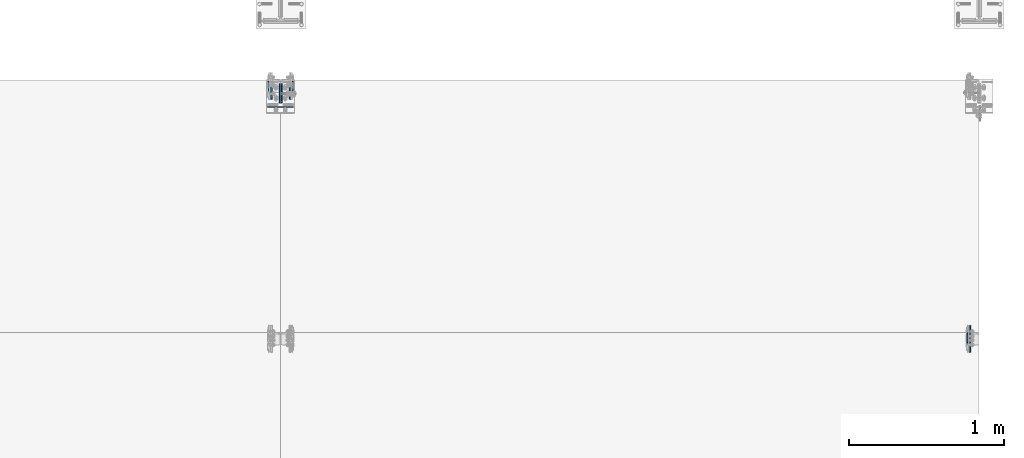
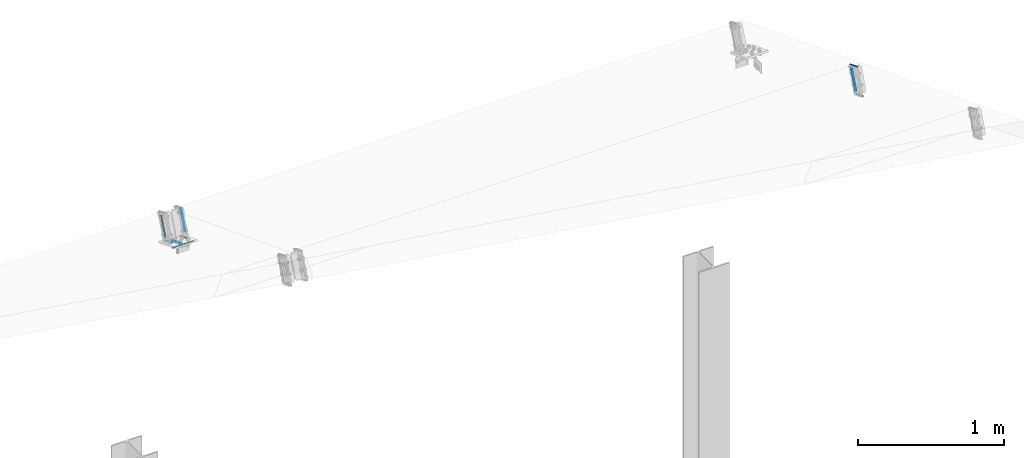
# One storey, part 19 of 72: 18 fasteners.
"""IFC4 building model written with IfcOpenShell, lengths in metres."""

import ifcopenshell
import ifcopenshell.guid

model = None  # the IFC model being written
_history = None  # IfcOwnerHistory: only IFC2X3 demands one
_inside = {}  # id of a spatial element -> (the spatial element, [elements in it])
_under = {}  # id of a project, library or spatial element -> (it, [spatial elements below it])
_declared = {}  # id of a project -> (the project, [libraries it declares])
_typed = {}  # id of a type object -> (the type object, [elements of that type])
_made_of = {}  # id of a material, layer set ... -> (it, [elements and type objects made of it])


def new_model(schema):
    """Start an empty IFC model of exactly this schema.

    Asked for "IFC4X3", IfcOpenShell would pick the latest addendum, in which some entities
    have other attributes; the version numbers below select the first issue.
    IFC2X3 requires an IfcOwnerHistory on every rooted entity: one is made here for all.
    """
    global model, _history
    if schema == "IFC4X3":
        model = ifcopenshell.file(schema_version=(4, 3, 0, 0))
    else:
        model = ifcopenshell.file(schema=schema)
    _inside.clear()
    _under.clear()
    _declared.clear()
    _typed.clear()
    _made_of.clear()
    _history = None
    if model.schema == "IFC2X3":
        org = make("IfcOrganization", Name="unknown")
        user = make(
            "IfcPersonAndOrganization",
            ThePerson=make("IfcPerson", FamilyName="unknown"),
            TheOrganization=org,
        )
        app = make(
            "IfcApplication",
            ApplicationDeveloper=org,
            Version="unknown",
            ApplicationFullName="unknown",
            ApplicationIdentifier="unknown",
        )
        _history = make(
            "IfcOwnerHistory",
            OwningUser=user,
            OwningApplication=app,
            ChangeAction="ADDED",
            CreationDate=0,
        )
    return model


def make(cls, **values):
    """One entity of the class cls with the attributes given. An attribute that is None is left unset."""
    return model.create_entity(
        cls, **{name: value for name, value in values.items() if value is not None}
    )


def rooted(cls, **values):
    """An entity with a GlobalId (a new one), such as an element, a storey or a relation."""
    return make(cls, GlobalId=ifcopenshell.guid.new(), OwnerHistory=_history, **values)


def si_unit(unit_type, name, prefix=None):
    """IfcSIUnit, for example si_unit("LENGTHUNIT", "METRE", prefix="MILLI")."""
    return make("IfcSIUnit", UnitType=unit_type, Prefix=prefix, Name=name)


def assignment(units):
    """IfcUnitAssignment: the units of a project."""
    return None if units is None else make("IfcUnitAssignment", Units=units)


def point(xyz):
    """IfcCartesianPoint."""
    return None if xyz is None else make("IfcCartesianPoint", Coordinates=xyz)


def direction(xyz):
    """IfcDirection."""
    return None if xyz is None else make("IfcDirection", DirectionRatios=xyz)


def frame(location, z_axis=None, x_axis=None):
    """IfcAxis2Placement3D, a coordinate frame: its origin and axes. An axis left out is left unset."""
    return make(
        "IfcAxis2Placement3D",
        Location=point(location),
        Axis=direction(z_axis),
        RefDirection=direction(x_axis),
    )


def origin_with_axes():
    """The frame at (0, 0, 0) with the z axis (0, 0, 1) and the x axis (1, 0, 0) written out."""
    return frame((0.0, 0.0, 0.0), z_axis=(0.0, 0.0, 1.0), x_axis=(1.0, 0.0, 0.0))


def place(relative_to, where):
    """IfcLocalPlacement: puts the frame where relative to a parent placement (None: the world)."""
    return make(
        "IfcLocalPlacement", PlacementRelTo=relative_to, RelativePlacement=where
    )


def context(
    kind, dimensions, precision=None, world=None, true_north=None, identifier=None
):
    """IfcGeometricRepresentationContext, for example the 3D "Model" context."""
    return make(
        "IfcGeometricRepresentationContext",
        ContextIdentifier=identifier,
        ContextType=kind,
        CoordinateSpaceDimension=dimensions,
        Precision=precision,
        WorldCoordinateSystem=world,
        TrueNorth=true_north,
    )


def project(units=None, contexts=None):
    """IfcProject with its units and contexts."""
    return rooted(
        "IfcProject",
        Name="project",
        RepresentationContexts=contexts,
        UnitsInContext=assignment(units),
    )


def spatial(cls, under=None, at=None, **own):
    """A site, building, storey or space (cls), placed at a placement, below another one or the project."""
    s = rooted(cls, ObjectPlacement=at, **own)
    if under is not None:
        _under.setdefault(under.id(), (under, []))[1].append(s)
    return s


def polyline(points):
    """IfcPolyline through the points."""
    return make("IfcPolyline", Points=[point(p) for p in points])


def outline(outer, holes=None, kind="AREA"):
    """IfcArbitraryClosedProfileDef: a profile drawn as a closed curve; with holes, ...WithVoids."""
    if holes is None:
        return make("IfcArbitraryClosedProfileDef", ProfileType=kind, OuterCurve=outer)
    return make(
        "IfcArbitraryProfileDefWithVoids",
        ProfileType=kind,
        OuterCurve=outer,
        InnerCurves=holes,
    )


def extrude(swept, where, along, depth):
    """IfcExtrudedAreaSolid: the profile swept, set in the frame where, extruded along a direction by depth."""
    return make(
        "IfcExtrudedAreaSolid",
        SweptArea=swept,
        Position=where,
        ExtrudedDirection=direction(along),
        Depth=depth,
    )


def shape(context_of_items, identifier, shape_type, items):
    """IfcShapeRepresentation: the items that make up one representation, for example the "Body"."""
    return make(
        "IfcShapeRepresentation",
        ContextOfItems=context_of_items,
        RepresentationIdentifier=identifier,
        RepresentationType=shape_type,
        Items=items,
    )


def made_of(thing, what):
    """Note that an element or type object is made of a material, layer set ...; save() writes the relation."""
    if what is not None:
        _made_of.setdefault(what.id(), (what, []))[1].append(thing)
    return thing


def type_object(cls, material=None, **own):
    """A type object (cls), such as IfcWallType, which elements share."""
    return made_of(rooted(cls, **own), material)


def element(
    cls,
    number,
    at=None,
    inside=None,
    cuts=None,
    type_object=None,
    material=None,
    context=None,
    identifier="Body",
    shape_type=None,
    held_by="IfcProductDefinitionShape",
    body=None,
    shapes=None,
    **own,
):
    """One element of the class cls, such as IfcWall. Its Tag is "e" and its number.

    at: its placement. inside: the storey or other place that contains it. cuts: it is an
    opening in that element (IfcRelVoidsElement). A single representation is given by context,
    identifier, shape_type and body (its items); several are given by shapes. held_by: the class
    of the entity that holds the representations. save() writes the other relations.
    """
    e = rooted(cls, Tag="e%d" % number, ObjectPlacement=at, **own)
    if body is not None:
        shapes = [shape(context, identifier, shape_type, body)]
    if shapes is not None:
        e.Representation = make(held_by, Representations=shapes)
    if inside is not None:
        _inside.setdefault(inside.id(), (inside, []))[1].append(e)
    if cuts is not None:
        rooted(
            "IfcRelVoidsElement", RelatingBuildingElement=cuts, RelatedOpeningElement=e
        )
    if type_object is not None:
        _typed.setdefault(type_object.id(), (type_object, []))[1].append(e)
    return made_of(e, material)


def aggregate(whole, parts):
    """IfcRelAggregates: a whole, such as a stair, and the parts it consists of."""
    return rooted("IfcRelAggregates", RelatingObject=whole, RelatedObjects=parts)


def save(model, path):
    """Write the relations noted so far, then the file.

    IfcRelAggregates (storeys below a building ...), IfcRelContainedInSpatialStructure (elements
    in a storey), IfcRelDefinesByType, IfcRelAssociatesMaterial and IfcRelDeclares: one each for
    every whole, place, type object, material and project.
    """
    for whole, parts in _under.values():
        aggregate(whole, parts)
    for where, things in _inside.values():
        rooted(
            "IfcRelContainedInSpatialStructure",
            RelatedElements=things,
            RelatingStructure=where,
        )
    for kind, things in _typed.values():
        rooted("IfcRelDefinesByType", RelatedObjects=things, RelatingType=kind)
    for what, things in _made_of.values():
        rooted("IfcRelAssociatesMaterial", RelatedObjects=things, RelatingMaterial=what)
    for by, libraries in _declared.values():
        rooted("IfcRelDeclares", RelatingContext=by, RelatedDefinitions=libraries)
    model.write(path)


model = new_model("IFC4")

# Units and contexts
model_context = context("Model", 3, precision=1e-05, world=origin_with_axes())
ifc_project = project(units=[si_unit("LENGTHUNIT", "METRE"), si_unit("AREAUNIT", "SQUARE_METRE"), si_unit("VOLUMEUNIT", "CUBIC_METRE"), si_unit("MASSUNIT", "GRAM", prefix="KILO"), si_unit("TIMEUNIT", "SECOND"), si_unit("PLANEANGLEUNIT", "RADIAN"), si_unit("SOLIDANGLEUNIT", "STERADIAN"), si_unit("THERMODYNAMICTEMPERATUREUNIT", "DEGREE_CELSIUS")], contexts=[model_context])

# Site, building, storey
placement_1 = place(None, origin_with_axes())
site = spatial("IfcSite", under=ifc_project, at=placement_1, Name="Italia", CompositionType="ELEMENT")
building = spatial("IfcBuilding", under=site, at=placement_1, Name="Uffici", CompositionType="ELEMENT")
storey = spatial("IfcBuildingStorey", under=building, at=placement_1, Name="Storey 0", CompositionType="ELEMENT", Elevation=0.0)

# Fasteners
fastener_type_1 = type_object("IfcFastenerType", Name="Collegamento -020_-019", PredefinedType="WELD")
placement_2 = place(placement_1, origin_with_axes())
fastener_1_placement = place(placement_2, origin_with_axes())
element("IfcFastener", 1, at=fastener_1_placement, inside=storey, type_object=fastener_type_1, Name="Collegamento -020_-019", context=model_context, shape_type="SweptSolid", body=[
    extrude(outline(polyline([(0.0, 0.0), (-0.00717354, 0.00695825), (0.0, 0.00695825), (0.0, 0.0)])), frame((13.8951, 3.26833, 5.95076), z_axis=(0.0, -0.361461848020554, -0.932386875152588), x_axis=(1.0, 0.0, 0.0)), (0.0, 0.0, 1.0), 0.1591),
])
fastener_type_2 = type_object("IfcFastenerType", Name="Collegamento -020_-019", PredefinedType="WELD")
fastener_2_placement = place(placement_2, origin_with_axes())
element("IfcFastener", 2, at=fastener_2_placement, inside=storey, type_object=fastener_type_2, Name="Collegamento -020_-019", context=model_context, shape_type="SweptSolid", body=[
    extrude(outline(polyline([(0.0, 0.0), (0.00717354, -0.00695825), (0.0, -0.00695825), (0.0, 0.0)])), frame((13.8951, 3.19271, 5.80943), z_axis=(0.0, 0.361460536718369, 0.932387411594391), x_axis=(-1.0, 0.0, 0.0)), (0.0, 0.0, 1.0), 0.1591),
])
fastener_type_3 = type_object("IfcFastenerType", Name="Collegamento -020_-019", PredefinedType="WELD")
fastener_3_placement = place(placement_2, origin_with_axes())
element("IfcFastener", 3, at=fastener_3_placement, inside=storey, type_object=fastener_type_3, Name="Collegamento -020_-019", context=model_context, shape_type="SweptSolid", body=[
    extrude(outline(polyline([(0.0, 0.0), (-0.00717354, 0.00695825), (0.0, 0.00695825), (0.0, 0.0)])), frame((13.8951, 3.26833, 5.95076), z_axis=(0.0, -0.361461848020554, -0.932386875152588), x_axis=(1.0, 0.0, 0.0)), (0.0, 0.0, 1.0), 0.1591),
])
fastener_type_4 = type_object("IfcFastenerType", Name="Collegamento -020_-019", PredefinedType="WELD")
fastener_4_placement = place(placement_2, origin_with_axes())
element("IfcFastener", 4, at=fastener_4_placement, inside=storey, type_object=fastener_type_4, Name="Collegamento -020_-019", context=model_context, shape_type="SweptSolid", body=[
    extrude(outline(polyline([(0.0, 0.0), (0.00717354, -0.00695825), (0.0, -0.00695825), (0.0, 0.0)])), frame((13.8951, 3.19271, 5.80943), z_axis=(0.0, 0.361460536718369, 0.932387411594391), x_axis=(-1.0, 0.0, 0.0)), (0.0, 0.0, 1.0), 0.1591),
])
fastener_type_5 = type_object("IfcFastenerType", Name="Collegamento -020_-019", PredefinedType="WELD")
fastener_5_placement = place(placement_2, origin_with_axes())
element("IfcFastener", 5, at=fastener_5_placement, inside=storey, type_object=fastener_type_5, Name="Collegamento -020_-019", context=model_context, shape_type="SweptSolid", body=[
    extrude(outline(polyline([(0.0, 0.0), (0.00937271, -0.00909233), (0.0, -0.00909233), (0.0, 0.0)])), frame((13.9151, 3.14375, 5.79473), z_axis=(0.0, 0.932386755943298, -0.36146205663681), x_axis=(-1.0, 0.0, 0.0)), (0.0, 0.0, 1.0), 0.1001),
])
fastener_type_6 = type_object("IfcFastenerType", Name="Collegamento -020_-019", PredefinedType="WELD")
fastener_6_placement = place(placement_2, origin_with_axes())
element("IfcFastener", 6, at=fastener_6_placement, inside=storey, type_object=fastener_type_6, Name="Collegamento -020_-019", context=model_context, shape_type="SweptSolid", body=[
    extrude(outline(polyline([(0.0, 0.0), (-0.00937271, 0.00909185), (0.0, 0.00909185), (0.0, 0.0)])), frame((13.9151, 3.31006, 5.94681), z_axis=(0.0, -0.932386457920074, 0.361462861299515), x_axis=(1.0, 0.0, 0.0)), (0.0, 0.0, 1.0), 0.1001),
])
fastener_type_7 = type_object("IfcFastenerType", Name="Collegamento 0209_0109", PredefinedType="WELD")
fastener_7_placement = place(placement_2, origin_with_axes())
element("IfcFastener", 7, at=fastener_7_placement, inside=storey, type_object=fastener_type_7, Name="Collegamento 0209_0109", context=model_context, shape_type="SweptSolid", body=[
    extrude(outline(polyline([(0.0, 0.0), (-0.00443697, -0.0104866), (-0.00739193, -0.00286579), (0.0, 0.0)])), frame((9.53705, 4.72167, 5.15715), z_axis=(-1.0, 0.0, 2.905760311e-06), x_axis=(0.0, -1.0, 0.0)), (0.0, 0.0, 1.0), 0.164101),
])
fastener_type_8 = type_object("IfcFastenerType", Name="Collegamento 0209_0109", PredefinedType="WELD")
fastener_8_placement = place(placement_2, origin_with_axes())
element("IfcFastener", 8, at=fastener_8_placement, inside=storey, type_object=fastener_type_8, Name="Collegamento 0209_0109", context=model_context, shape_type="SweptSolid", body=[
    extrude(outline(polyline([(0.0, 0.0), (-0.00792789, -0.00817394), (-0.00792789, 0.0), (0.0, 0.0)])), frame((9.46588, 4.87658, 5.09709), z_axis=(0.0, -0.932361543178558, 0.36152720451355), x_axis=(1.0, 0.0, 0.0)), (0.0, 0.0, 1.0), 0.133127),
])
fastener_type_9 = type_object("IfcFastenerType", Name="Collegamento 0209_0109", PredefinedType="WELD")
fastener_9_placement = place(placement_2, origin_with_axes())
element("IfcFastener", 9, at=fastener_9_placement, inside=storey, type_object=fastener_type_9, Name="Collegamento 0209_0109", context=model_context, shape_type="SweptSolid", body=[
    extrude(outline(polyline([(0.0, 0.0), (-0.00792789, -0.00817347), (-0.00792789, 0.0), (0.0, 0.0)])), frame((9.44412, 4.75246, 5.14522), z_axis=(0.0, 0.932361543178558, -0.36152720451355), x_axis=(-1.0, 0.0, 0.0)), (0.0, 0.0, 1.0), 0.133127),
])
fastener_type_10 = type_object("IfcFastenerType", Name="Collegamento 0209_0109", PredefinedType="WELD")
fastener_10_placement = place(placement_2, origin_with_axes())
element("IfcFastener", 10, at=fastener_10_placement, inside=storey, type_object=fastener_type_10, Name="Collegamento 0209_0109", context=model_context, shape_type="SweptSolid", body=[
    extrude(outline(polyline([(0.0, 0.0), (-0.00443697, -0.0104866), (-0.00739193, -0.00286579), (0.0, 0.0)])), frame((9.53705, 4.72167, 5.15715), z_axis=(-1.0, 0.0, 2.905760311e-06), x_axis=(0.0, -1.0, 0.0)), (0.0, 0.0, 1.0), 0.164101),
])
fastener_type_11 = type_object("IfcFastenerType", Name="Collegamento 0209_0109", PredefinedType="WELD")
fastener_11_placement = place(placement_2, origin_with_axes())
element("IfcFastener", 11, at=fastener_11_placement, inside=storey, type_object=fastener_type_11, Name="Collegamento 0209_0109", context=model_context, shape_type="SweptSolid", body=[
    extrude(outline(polyline([(0.0, 0.0), (-0.00792789, -0.00817394), (-0.00792789, 0.0), (0.0, 0.0)])), frame((9.46588, 4.87658, 5.09709), z_axis=(0.0, -0.932361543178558, 0.36152720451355), x_axis=(1.0, 0.0, 0.0)), (0.0, 0.0, 1.0), 0.133127),
])
fastener_type_12 = type_object("IfcFastenerType", Name="Collegamento 0209_0109", PredefinedType="WELD")
fastener_12_placement = place(placement_2, origin_with_axes())
element("IfcFastener", 12, at=fastener_12_placement, inside=storey, type_object=fastener_type_12, Name="Collegamento 0209_0109", context=model_context, shape_type="SweptSolid", body=[
    extrude(outline(polyline([(0.0, 0.0), (-0.00792789, -0.00817347), (-0.00792789, 0.0), (0.0, 0.0)])), frame((9.44412, 4.75246, 5.14522), z_axis=(0.0, 0.932361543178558, -0.36152720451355), x_axis=(-1.0, 0.0, 0.0)), (0.0, 0.0, 1.0), 0.133127),
])
fastener_type_13 = type_object("IfcFastenerType", Name="Collegamento 0209_0208", PredefinedType="WELD")
fastener_13_placement = place(placement_2, origin_with_axes())
element("IfcFastener", 13, at=fastener_13_placement, inside=storey, type_object=fastener_type_13, Name="Collegamento 0209_0208", context=model_context, shape_type="SweptSolid", body=[
    extrude(outline(polyline([(0.0, 0.0), (0.00717354, -0.00695848), (0.0, -0.00695848), (0.0, 0.0)])), frame((9.38005, 4.82605, 5.1761), z_axis=(0.0, 0.361463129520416, 0.93238639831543), x_axis=(-1.0, 0.0, 0.0)), (0.0, 0.0, 1.0), 0.1591),
])
fastener_type_14 = type_object("IfcFastenerType", Name="Collegamento 0209_0208", PredefinedType="WELD")
fastener_14_placement = place(placement_2, origin_with_axes())
element("IfcFastener", 14, at=fastener_14_placement, inside=storey, type_object=fastener_type_14, Name="Collegamento 0209_0208", context=model_context, shape_type="SweptSolid", body=[
    extrude(outline(polyline([(0.0, 0.0), (0.00717354, -0.00695848), (0.0, -0.00695848), (0.0, 0.0)])), frame((9.38005, 4.82605, 5.1761), z_axis=(0.0, 0.361463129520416, 0.93238639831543), x_axis=(-1.0, 0.0, 0.0)), (0.0, 0.0, 1.0), 0.1591),
])
fastener_type_15 = type_object("IfcFastenerType", Name="Collegamento 0209_0208", PredefinedType="WELD")
fastener_15_placement = place(placement_2, origin_with_axes())
element("IfcFastener", 15, at=fastener_15_placement, inside=storey, type_object=fastener_type_15, Name="Collegamento 0209_0208", context=model_context, shape_type="SweptSolid", body=[
    extrude(outline(polyline([(0.0, 0.0), (0.00937271, -0.00909185), (0.0, -0.00909185), (0.0, 0.0)])), frame((9.40005, 4.77713, 5.16151), z_axis=(0.0, 0.932387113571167, -0.361461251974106), x_axis=(-1.0, 0.0, 0.0)), (0.0, 0.0, 1.0), 0.1001),
])
fastener_type_16 = type_object("IfcFastenerType", Name="Collegamento 0209_0210", PredefinedType="WELD")
fastener_16_placement = place(placement_2, origin_with_axes())
element("IfcFastener", 16, at=fastener_16_placement, inside=storey, type_object=fastener_type_16, Name="Collegamento 0209_0210", context=model_context, shape_type="SweptSolid", body=[
    extrude(outline(polyline([(0.0, 0.0), (0.00717354, -0.00695801), (0.0, -0.00695801), (0.0, 0.0)])), frame((9.52995, 4.88356, 5.32444), z_axis=(0.0, -0.361463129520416, -0.93238639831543), x_axis=(1.0, 0.0, 0.0)), (0.0, 0.0, 1.0), 0.1591),
])
fastener_type_17 = type_object("IfcFastenerType", Name="Collegamento 0209_0210", PredefinedType="WELD")
fastener_17_placement = place(placement_2, origin_with_axes())
element("IfcFastener", 17, at=fastener_17_placement, inside=storey, type_object=fastener_type_17, Name="Collegamento 0209_0210", context=model_context, shape_type="SweptSolid", body=[
    extrude(outline(polyline([(0.0, 0.0), (0.00717354, -0.00695801), (0.0, -0.00695801), (0.0, 0.0)])), frame((9.52995, 4.88356, 5.32444), z_axis=(0.0, -0.361463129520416, -0.93238639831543), x_axis=(1.0, 0.0, 0.0)), (0.0, 0.0, 1.0), 0.1591),
])
fastener_type_18 = type_object("IfcFastenerType", Name="Collegamento 0209_0210", PredefinedType="WELD")
fastener_18_placement = place(placement_2, origin_with_axes())
element("IfcFastener", 18, at=fastener_18_placement, inside=storey, type_object=fastener_type_18, Name="Collegamento 0209_0210", context=model_context, shape_type="SweptSolid", body=[
    extrude(outline(polyline([(0.0, 0.0), (0.00937271, -0.00909233), (0.0, -0.00909233), (0.0, 0.0)])), frame((9.50995, 4.87046, 5.12533), z_axis=(0.0, -0.932387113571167, 0.361461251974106), x_axis=(1.0, 0.0, 0.0)), (0.0, 0.0, 1.0), 0.1001),
])

save(model, "model.ifc")
